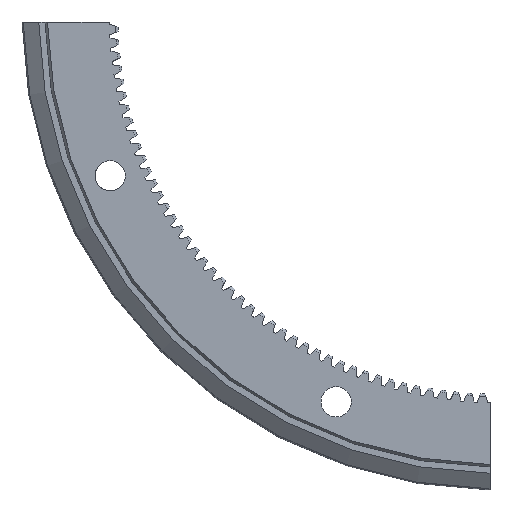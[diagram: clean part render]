
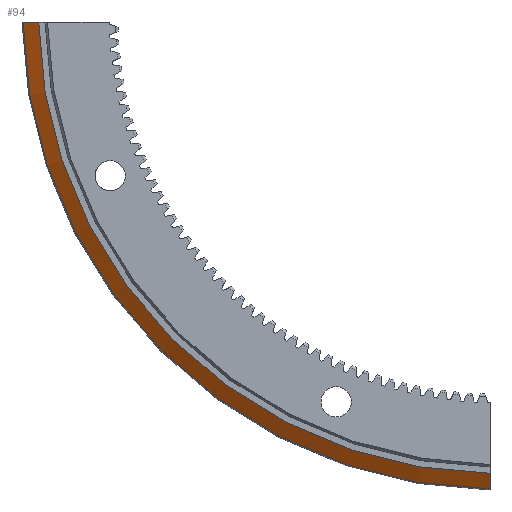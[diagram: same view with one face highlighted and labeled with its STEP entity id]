
A CAD part, front view. The second image highlights one B-rep face of the part: STEP entity #94.
In plain terms, the highlighted conical face has half-angle 55 degrees and reference radius 77.879 mm.
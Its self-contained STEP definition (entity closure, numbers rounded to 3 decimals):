
#94=ADVANCED_FACE('',(#335),#336,.T.);
#335=FACE_OUTER_BOUND('',#823,.T.);
#336=CONICAL_SURFACE('',#824,77.879,0.96);
#823=EDGE_LOOP('',(#1323,#1324,#1325,#1326));
#824=AXIS2_PLACEMENT_3D('',#1327,#1328,#1329);
#1323=ORIENTED_EDGE('',*,*,#3428,.F.);
#1324=ORIENTED_EDGE('',*,*,#3439,.F.);
#1325=ORIENTED_EDGE('',*,*,#3440,.F.);
#1326=ORIENTED_EDGE('',*,*,#3441,.T.);
#1327=CARTESIAN_POINT('',(0.0,7.576,0.0));
#1328=DIRECTION('',(-0.0,1.0,-0.0));
#1329=DIRECTION('',(0.0,0.0,1.0));
#3428=EDGE_CURVE('',#4129,#4130,#4131,.T.);
#3439=EDGE_CURVE('',#4151,#4129,#4152,.T.);
#3440=EDGE_CURVE('',#4153,#4151,#4154,.T.);
#3441=EDGE_CURVE('',#4153,#4130,#4155,.T.);
#4129=VERTEX_POINT('',#5300);
#4130=VERTEX_POINT('',#5301);
#4131=B_SPLINE_CURVE_WITH_KNOTS('',3,(#5302,#5303,#5304,#5305),.UNSPECIFIED.,.F.,.F.,(4,4),(0.183,0.186),.UNSPECIFIED.);
#4151=VERTEX_POINT('',#5347);
#4152=CIRCLE('',#5348,75.343);
#4153=VERTEX_POINT('',#5349);
#4154=B_SPLINE_CURVE_WITH_KNOTS('',3,(#5350,#5351,#5352,#5353),.UNSPECIFIED.,.F.,.F.,(4,4),(0.114,0.117),.UNSPECIFIED.);
#4155=CIRCLE('',#5354,77.879);
#5300=CARTESIAN_POINT('',(-1.0,5.8,-75.336));
#5301=CARTESIAN_POINT('',(-1.0,7.576,-77.873));
#5302=CARTESIAN_POINT('',(-1.0,5.8,-75.336));
#5303=CARTESIAN_POINT('',(-1.0,6.392,-76.182));
#5304=CARTESIAN_POINT('',(-1.0,6.984,-77.027));
#5305=CARTESIAN_POINT('',(-1.0,7.576,-77.873));
#5347=CARTESIAN_POINT('',(-75.336,5.8,-1.0));
#5348=AXIS2_PLACEMENT_3D('',#7150,#7151,#7152);
#5349=CARTESIAN_POINT('',(-77.873,7.576,-1.0));
#5350=CARTESIAN_POINT('',(-77.873,7.576,-1.0));
#5351=CARTESIAN_POINT('',(-77.027,6.984,-1.0));
#5352=CARTESIAN_POINT('',(-76.182,6.392,-1.0));
#5353=CARTESIAN_POINT('',(-75.336,5.8,-1.0));
#5354=AXIS2_PLACEMENT_3D('',#7153,#7154,#7155);
#7150=CARTESIAN_POINT('',(0.0,5.8,0.0));
#7151=DIRECTION('',(0.0,-1.0,0.0));
#7152=DIRECTION('',(0.0,0.0,-1.0));
#7153=CARTESIAN_POINT('',(0.0,7.576,0.0));
#7154=DIRECTION('',(0.0,-1.0,0.0));
#7155=DIRECTION('',(0.0,0.0,-1.0));
